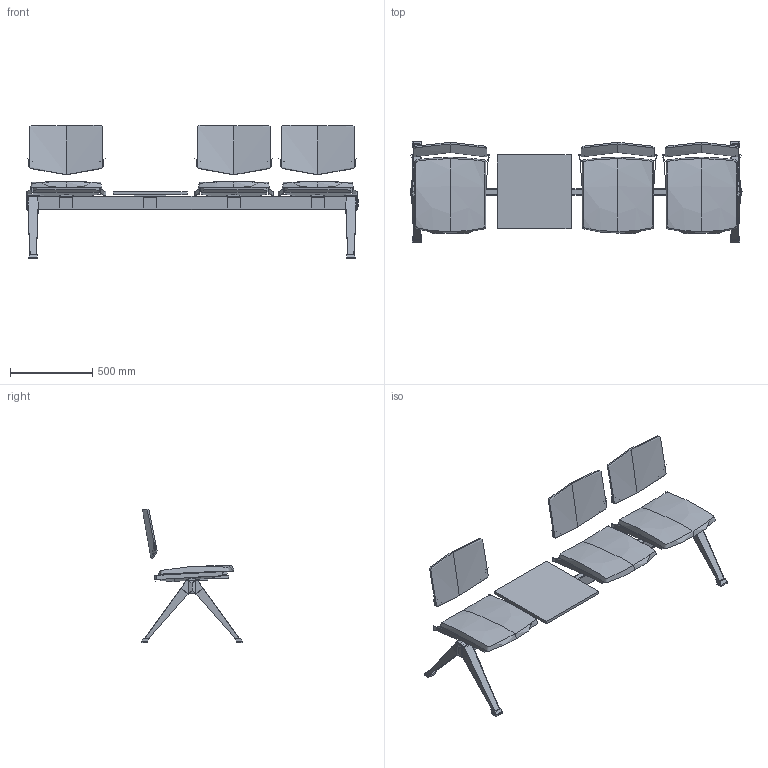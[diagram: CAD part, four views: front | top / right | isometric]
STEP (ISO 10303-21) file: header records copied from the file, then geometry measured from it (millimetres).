
FILE_DESCRIPTION(/* description */ (''),/* implementation_level */ '2;1');
FILE_NAME(/* name */ 'Seance 099-V3T',/* time_stamp */ '2020-03-26T14:37:05+01:00',/* author */ (''),/* organization */ (''),/* preprocessor_version */ 'ST-DEVELOPER v16.5',/* originating_system */ '',/* authorisation */ '');
FILE_SCHEMA (('AUTOMOTIVE_DESIGN'));
Length unit declared in the file: millimetre
Products named in the file (1): Document
Bounding box: 2020 x 620 x 812.99 mm (x, y, z)
Volume: 33256102.3 mm3; surface area: 4834807.3 mm2
Topology: 53 solids, 61 shells, 562 faces, 1306 edges, 839 vertices
Faces by surface type: bspline 290, plane 272
Entity records: 20032 total; most frequent: CARTESIAN_POINT 11457, ORIENTED_EDGE 2468, EDGE_CURVE 1278, B_SPLINE_CURVE_WITH_KNOTS 1016, VERTEX_POINT 825, ADVANCED_FACE 562, FACE_OUTER_BOUND 562, EDGE_LOOP 562
